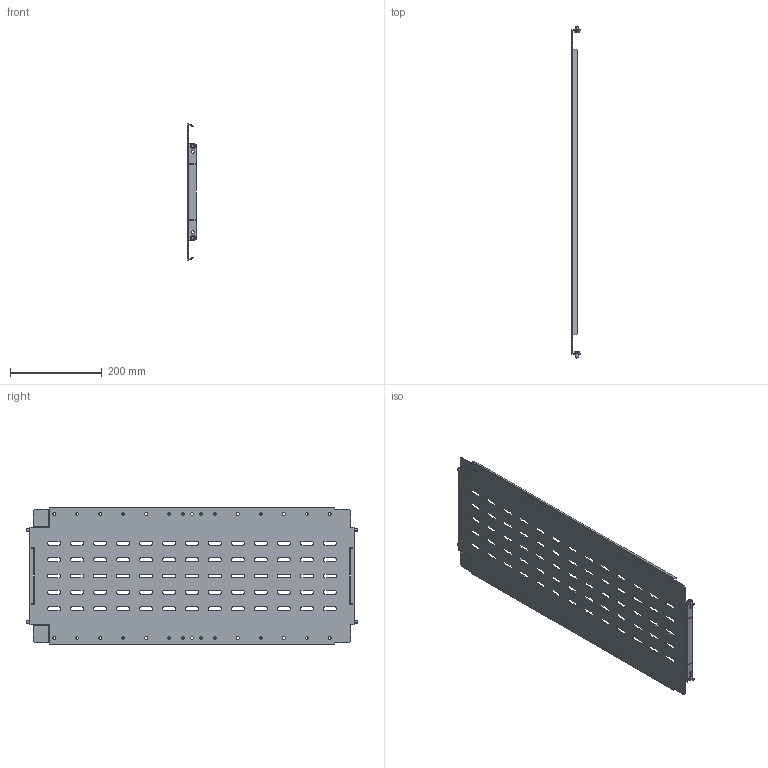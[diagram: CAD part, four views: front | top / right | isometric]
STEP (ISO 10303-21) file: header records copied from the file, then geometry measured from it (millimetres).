
FILE_DESCRIPTION (( 'STEP AP214' ), '1' );
FILE_NAME ('FO-00-SWV-030-080 Ïåðåãîðîäêà ñåêöèîíèðîâàíèÿ âåðòèêàëüíàÿ 300õ800 ìì.STEP', '2025-08-11T10:37:17', ( '' ), ( '' ), 'SwSTEP 2.0', 'SolidWorks 2023', '' );
FILE_SCHEMA (( 'AUTOMOTIVE_DESIGN' ));
Length unit declared in the file: millimetre
Products named in the file (1): FO-00-SWV-030-080 Перегородка секционирования вертикальная 300х800 мм
Bounding box: 17.5 x 722.5 x 298.93 mm (x, y, z)
Volume: 321522.5 mm3; surface area: 439534.8 mm2
Topology: 1 solids, 1 shells, 544 faces, 1578 edges, 1044 vertices
Faces by surface type: plane 298, cylinder 222, torus 16, cone 8
Entity records: 18469 total; most frequent: CARTESIAN_POINT 3167, ORIENTED_EDGE 3156, DIRECTION 3152, EDGE_CURVE 1578, VECTOR 1094, LINE 1094, VERTEX_POINT 1044, AXIS2_PLACEMENT_3D 1029
